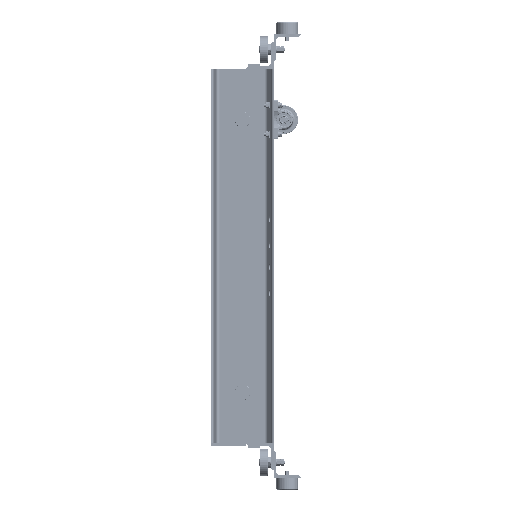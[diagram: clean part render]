
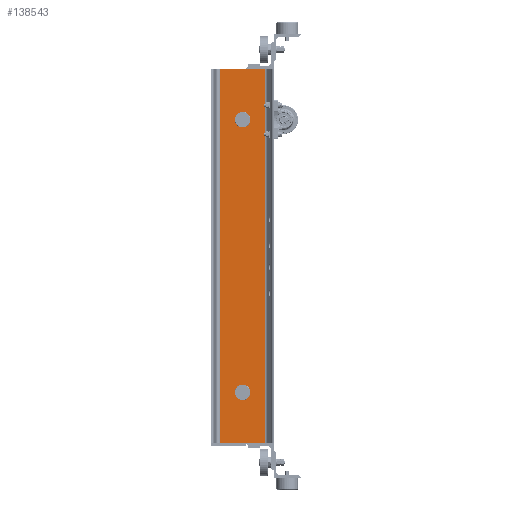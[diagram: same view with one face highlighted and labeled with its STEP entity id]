
A CAD part, left-side view. The second image highlights one B-rep face of the part: STEP entity #138543.
In plain terms, the highlighted planar face has unit normal (-1, 0, 0) as drawn and (1, 0, 0) by its records, which use the part's own axes.
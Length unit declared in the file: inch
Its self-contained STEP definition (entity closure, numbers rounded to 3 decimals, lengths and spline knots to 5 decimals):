
#6974 = DIRECTION ( 'NONE',  ( 0., 0., -1. ) ) ;
#7166 = CARTESIAN_POINT ( 'NONE',  ( 0.353, 3.971, -17.5 ) ) ;
#9964 = DIRECTION ( 'NONE',  ( 0., 1., 0. ) ) ;
#10478 = CARTESIAN_POINT ( 'NONE',  ( 0.353, 6.85768, 24. ) ) ;
#10818 = CIRCLE ( 'NONE', #95484, 0.8875 ) ;
#12676 = EDGE_CURVE ( 'NONE', #47028, #150522, #179992, .T. ) ;
#14566 = CIRCLE ( 'NONE', #150933, 0.8875 ) ;
#20781 = ORIENTED_EDGE ( 'NONE', *, *, #26484, .F. ) ;
#22689 = CARTESIAN_POINT ( 'NONE',  ( 0.353, 6.85768, 24. ) ) ;
#26484 = EDGE_CURVE ( 'NONE', #101920, #130823, #10818, .T. ) ;
#26559 = ORIENTED_EDGE ( 'NONE', *, *, #189219, .F. ) ;
#32131 = EDGE_CURVE ( 'NONE', #47028, #128625, #176565, .T. ) ;
#47028 = VERTEX_POINT ( 'NONE', #22689 ) ;
#54380 = CARTESIAN_POINT ( 'NONE',  ( 0.353, 3.0835, -17.5 ) ) ;
#56483 = ORIENTED_EDGE ( 'NONE', *, *, #178830, .F. ) ;
#56490 = DIRECTION ( 'NONE',  ( 0., -1., 0. ) ) ;
#58286 = AXIS2_PLACEMENT_3D ( 'NONE', #10478, #151239, #62450 ) ;
#58626 = DIRECTION ( 'NONE',  ( 0., 1., 0. ) ) ;
#60058 = CARTESIAN_POINT ( 'NONE',  ( 0.353, 1.14232, 24. ) ) ;
#61308 = FACE_BOUND ( 'NONE', #227459, .T. ) ;
#61676 = VERTEX_POINT ( 'NONE', #140639 ) ;
#62450 = DIRECTION ( 'NONE',  ( 0., 1., 0. ) ) ;
#63972 = EDGE_LOOP ( 'NONE', ( #151083, #169330 ) ) ;
#73609 = VERTEX_POINT ( 'NONE', #88563 ) ;
#75749 = VECTOR ( 'NONE', #6974, 39.37008 ) ;
#78599 = FACE_OUTER_BOUND ( 'NONE', #194305, .T. ) ;
#81651 = CIRCLE ( 'NONE', #162876, 0.8875 ) ;
#82843 = CARTESIAN_POINT ( 'NONE',  ( 0.353, 3.971, 17.5 ) ) ;
#88436 = EDGE_CURVE ( 'NONE', #61676, #101360, #81651, .T. ) ;
#88563 = CARTESIAN_POINT ( 'NONE',  ( 0.353, 1.14232, -24. ) ) ;
#88753 = DIRECTION ( 'NONE',  ( 0., -1., 0. ) ) ;
#95484 = AXIS2_PLACEMENT_3D ( 'NONE', #7166, #111043, #181425 ) ;
#99947 = EDGE_CURVE ( 'NONE', #101360, #61676, #14566, .T. ) ;
#100366 = ORIENTED_EDGE ( 'NONE', *, *, #191918, .T. ) ;
#101360 = VERTEX_POINT ( 'NONE', #185116 ) ;
#101920 = VERTEX_POINT ( 'NONE', #54380 ) ;
#108402 = CARTESIAN_POINT ( 'NONE',  ( 0.353, 6.85768, 24. ) ) ;
#110763 = DIRECTION ( 'NONE',  ( 0., 0., -1. ) ) ;
#111043 = DIRECTION ( 'NONE',  ( 1., 0., 0. ) ) ;
#112608 = CARTESIAN_POINT ( 'NONE',  ( 0.353, 4.8585, -17.5 ) ) ;
#113842 = DIRECTION ( 'NONE',  ( 1., 0., 0. ) ) ;
#123463 = CARTESIAN_POINT ( 'NONE',  ( 0.353, 6.85768, 24. ) ) ;
#126191 = ORIENTED_EDGE ( 'NONE', *, *, #12676, .F. ) ;
#128625 = VERTEX_POINT ( 'NONE', #175966 ) ;
#130522 = FACE_BOUND ( 'NONE', #63972, .T. ) ;
#130823 = VERTEX_POINT ( 'NONE', #112608 ) ;
#134718 = CIRCLE ( 'NONE', #193717, 0.8875 ) ;
#138543 = ADVANCED_FACE ( 'NONE', ( #61308, #130522, #78599 ), #167438, .T. ) ;
#140639 = CARTESIAN_POINT ( 'NONE',  ( 0.353, 3.0835, 17.5 ) ) ;
#150522 = VERTEX_POINT ( 'NONE', #171134 ) ;
#150933 = AXIS2_PLACEMENT_3D ( 'NONE', #82843, #153230, #224792 ) ;
#151083 = ORIENTED_EDGE ( 'NONE', *, *, #99947, .F. ) ;
#151239 = DIRECTION ( 'NONE',  ( 1., 0., 0. ) ) ;
#151382 = ORIENTED_EDGE ( 'NONE', *, *, #32131, .T. ) ;
#153230 = DIRECTION ( 'NONE',  ( 1., 0., 0. ) ) ;
#157095 = LINE ( 'NONE', #60058, #75749 ) ;
#162499 = DIRECTION ( 'NONE',  ( 1., 0., 0. ) ) ;
#162876 = AXIS2_PLACEMENT_3D ( 'NONE', #215571, #162499, #58626 ) ;
#167438 = PLANE ( 'NONE',  #58286 ) ;
#169330 = ORIENTED_EDGE ( 'NONE', *, *, #88436, .F. ) ;
#171134 = CARTESIAN_POINT ( 'NONE',  ( 0.353, 6.85768, -24. ) ) ;
#175966 = CARTESIAN_POINT ( 'NONE',  ( 0.353, 1.14232, 24. ) ) ;
#176565 = LINE ( 'NONE', #108402, #216877 ) ;
#178830 = EDGE_CURVE ( 'NONE', #130823, #101920, #134718, .T. ) ;
#179857 = CARTESIAN_POINT ( 'NONE',  ( 0.353, 6.85768, -24. ) ) ;
#179992 = LINE ( 'NONE', #123463, #180447 ) ;
#180447 = VECTOR ( 'NONE', #110763, 39.37008 ) ;
#181425 = DIRECTION ( 'NONE',  ( 0., 1., 0. ) ) ;
#185116 = CARTESIAN_POINT ( 'NONE',  ( 0.353, 4.8585, 17.5 ) ) ;
#189219 = EDGE_CURVE ( 'NONE', #150522, #73609, #197157, .T. ) ;
#191918 = EDGE_CURVE ( 'NONE', #128625, #73609, #157095, .T. ) ;
#193717 = AXIS2_PLACEMENT_3D ( 'NONE', #200393, #113842, #9964 ) ;
#194305 = EDGE_LOOP ( 'NONE', ( #26559, #126191, #151382, #100366 ) ) ;
#197157 = LINE ( 'NONE', #179857, #219277 ) ;
#200393 = CARTESIAN_POINT ( 'NONE',  ( 0.353, 3.971, -17.5 ) ) ;
#215571 = CARTESIAN_POINT ( 'NONE',  ( 0.353, 3.971, 17.5 ) ) ;
#216877 = VECTOR ( 'NONE', #56490, 39.37008 ) ;
#219277 = VECTOR ( 'NONE', #88753, 39.37008 ) ;
#224792 = DIRECTION ( 'NONE',  ( 0., 1., 0. ) ) ;
#227459 = EDGE_LOOP ( 'NONE', ( #56483, #20781 ) ) ;
